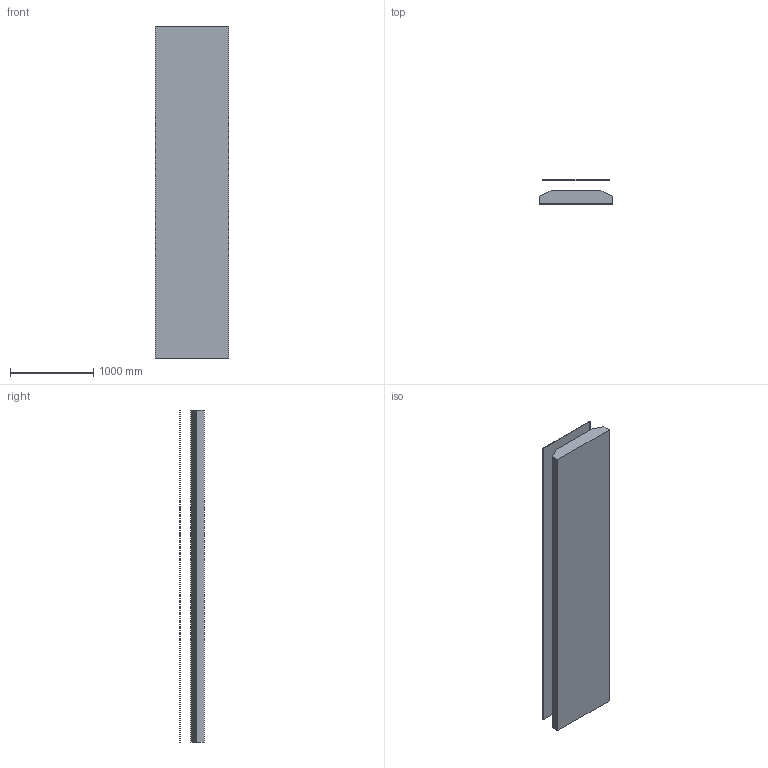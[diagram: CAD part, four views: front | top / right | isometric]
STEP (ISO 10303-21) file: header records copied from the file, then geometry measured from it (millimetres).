
FILE_DESCRIPTION (( 'STEP AP203' ), '1' );
FILE_NAME ('30776.step', '2019-03-14T14:33:12', ( 'PC' ), ( 'Hewlett-Packard Company' ), 'SwSTEP 2.0', 'SolidWorks 2016', '' );
FILE_SCHEMA (( 'CONFIG_CONTROL_DESIGN' ));
Length unit declared in the file: millimetre
Products named in the file (1): 30776
Bounding box: 880 x 293.5 x 4000 mm (x, y, z)
Volume: 543200000 mm3; surface area: 14611798.1 mm2
Topology: 2 solids, 2 shells, 14 faces, 30 edges, 20 vertices
Faces by surface type: plane 14
Entity records: 449 total; most frequent: CARTESIAN_POINT 65, DIRECTION 60, ORIENTED_EDGE 60, VECTOR 30, LINE 30, EDGE_CURVE 30, VERTEX_POINT 20, AXIS2_PLACEMENT_3D 15
